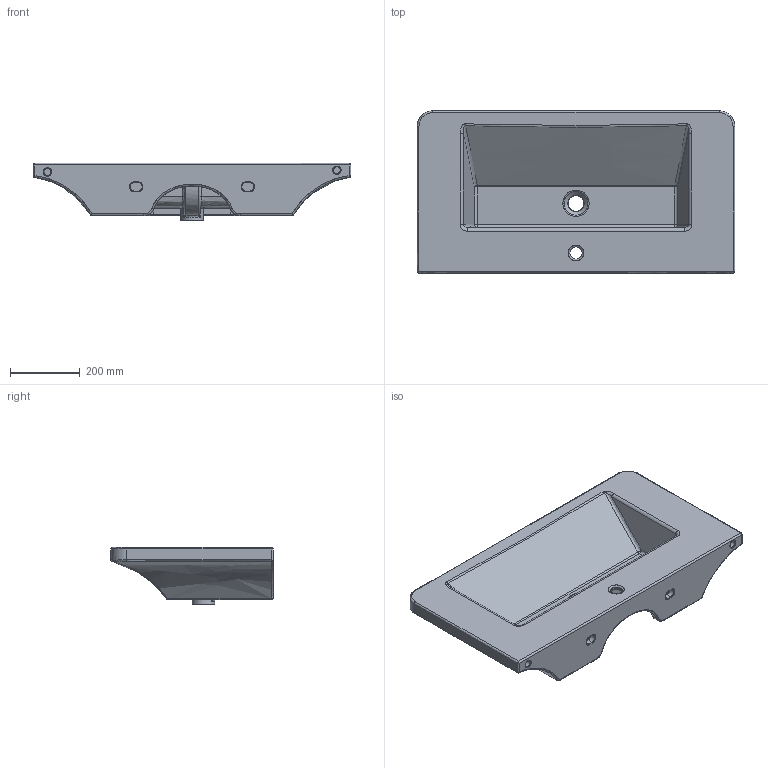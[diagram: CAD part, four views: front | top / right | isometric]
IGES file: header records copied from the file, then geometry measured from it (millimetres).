
Start section: C
Global section: file name: Lavabo Butterfly 90.igs; native system:  By UGS Corp.; preprocessor: XPlus GENERIC/IGES 3.0; author: Author; organization: Title; date: 20120705.093138; units: millimetre
Bounding box: 910 x 465 x 165 mm (x, y, z)
Surface area: 1351898.3 mm2 (no closed solid volume)
Topology: 0 solids, 0 shells, 321 faces, 1515 edges, 1492 vertices
Faces by surface type: bspline 321
